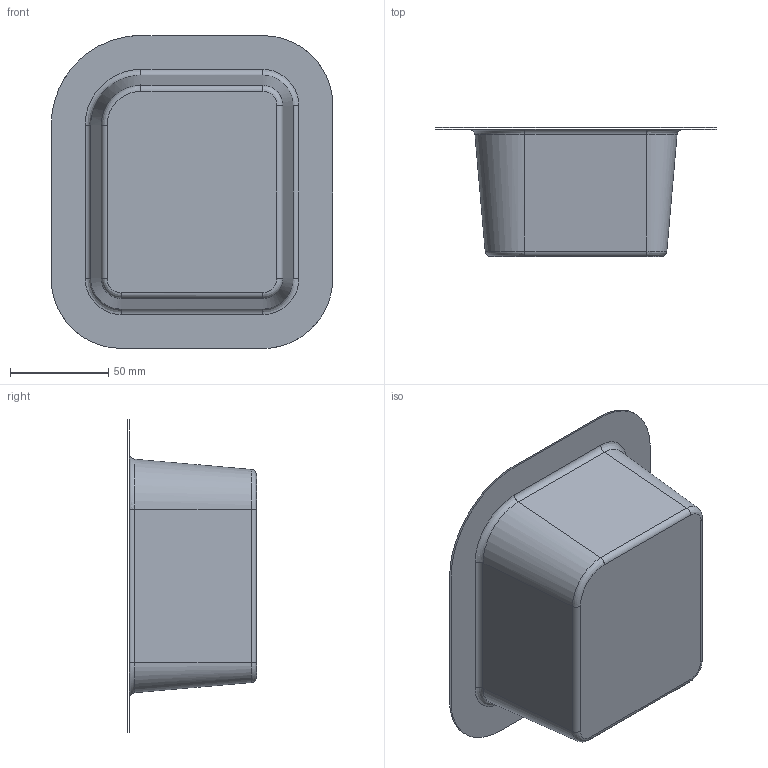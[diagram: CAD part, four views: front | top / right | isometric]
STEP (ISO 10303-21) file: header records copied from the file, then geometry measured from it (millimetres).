
FILE_DESCRIPTION(('CATIA V5 STEP Exchange'),'2;1');
FILE_NAME('C:\_Andres\UNIVERSIDAD\IQS\ASIGNATURAS\DAO\Controles\1617\c3\2inicio\dAndrea_Torrejon_control3_v8.stp','2017-02-17T14:22:03+00:00',('none'),('none'),'CATIA Version 5-6 Release 2014 SP1 HF18','CATIA V5 STEP AP203','none');
FILE_SCHEMA(('CONFIG_CONTROL_DESIGN'));
Length unit declared in the file: millimetre
Products named in the file (1): dAndrea_Torrejon_control3_v8
Bounding box: 143.33 x 65.75 x 159.33 mm (x, y, z)
Surface area: 65827.2 mm2 (no closed solid volume)
Topology: 0 solids, 2 shells, 27 faces, 80 edges, 57 vertices
Faces by surface type: bspline 16, cylinder 8, plane 3
Entity records: 1982 total; most frequent: CARTESIAN_POINT 1386, ORIENTED_EDGE 128, EDGE_CURVE 72, B_SPLINE_CURVE_WITH_KNOTS 54, DIRECTION 50, VERTEX_POINT 48, EDGE_LOOP 28, ADVANCED_FACE 27
